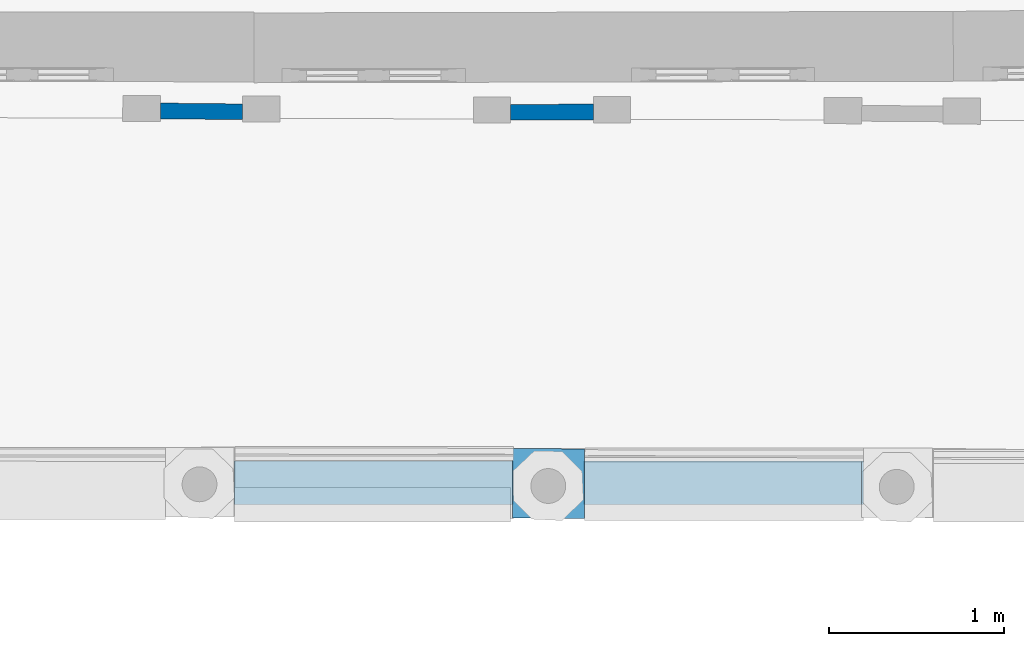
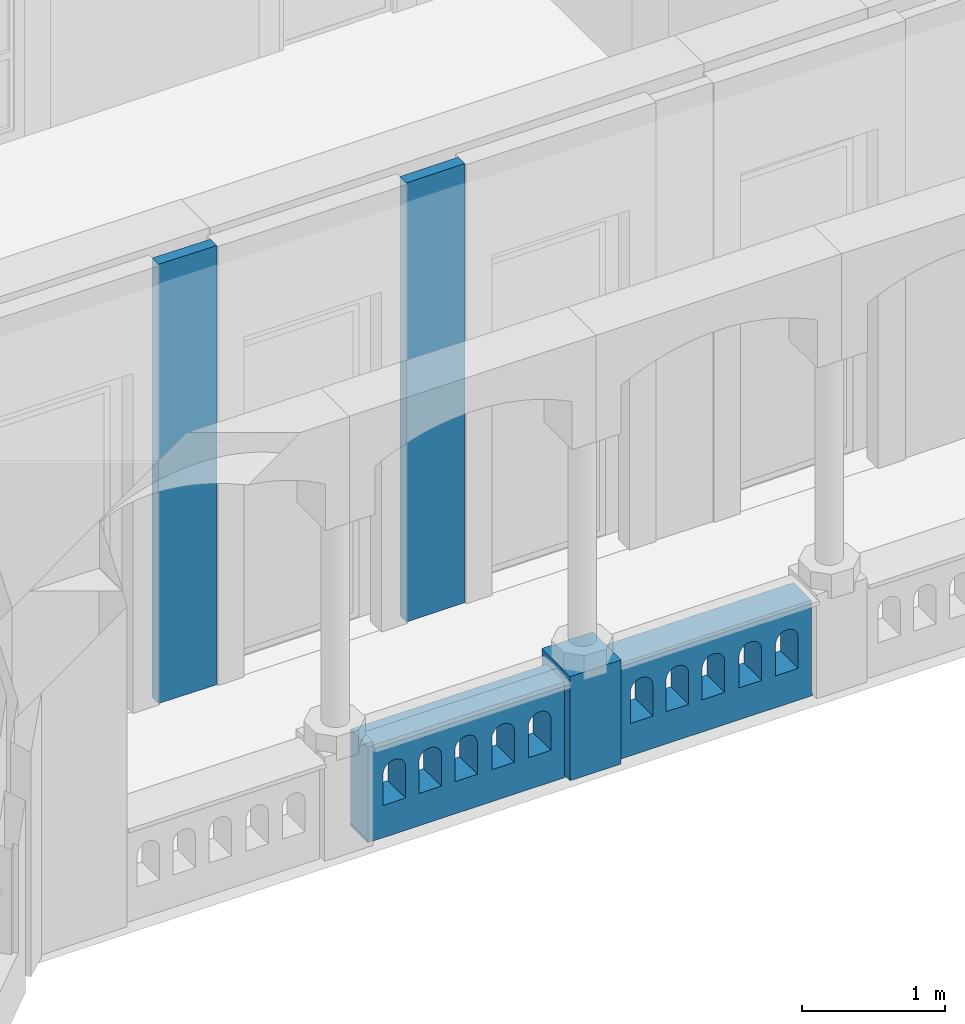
# One storey, part 5 of 66: 5 walls, 10 openings.
"""IFC2X3 building model written with IfcOpenShell, lengths in centimetres."""

from ifc_helpers import new_model, entity, si_unit, converted_unit, point, direction, frame, frame_2d, origin, origin_with_axes, origin_2d_with_axis, place, context, subcontext, project, spatial, polyline, circle_curve, trimmed, segment, composite_curve, rectangle, outline, extrude, clip, bounded_halfspace, shape, material, layer, layer_set, layer_usage, type_object, element, save


model = new_model("IFC2X3")

# Units and contexts
model_context = context("Model", 3, precision=0.0001, world=origin(), true_north=direction((0.225632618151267, 0.974212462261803, 0.0)))
body_context = subcontext(model_context, "Body", "Model", "MODEL_VIEW")
footprint_context = subcontext(model_context, "FootPrint", "Model", "MODEL_VIEW")
profile_context = subcontext(model_context, "Profile", "Model", "MODEL_VIEW")
ifc_project = project(units=[si_unit("LENGTHUNIT", "METRE", prefix="CENTI"), si_unit("AREAUNIT", "SQUARE_METRE", prefix="CENTI"), si_unit("VOLUMEUNIT", "CUBIC_METRE", prefix="CENTI"), converted_unit("PLANEANGLEUNIT", "DEGREE", entity("IfcRatioMeasure", 0.0174532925), si_unit("PLANEANGLEUNIT", "RADIAN"), dimensions=[0, 0, 0, 0, 0, 0, 0])], contexts=[model_context])

# Site, building, storey
site_placement = place(None, origin_with_axes())
site = spatial("IfcSite", under=ifc_project, at=site_placement, Name="Default Site", CompositionType="ELEMENT")
building_placement = place(site_placement, origin_with_axes())
building = spatial("IfcBuilding", under=site, at=building_placement, Name="Default Building", CompositionType="ELEMENT")
storey_placement = place(building_placement, frame((0.0, 0.0, 477.795358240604), z_axis=(0.0, 0.0, 1.0), x_axis=(1.0, 0.0, 0.0)))
storey = spatial("IfcBuildingStorey", under=building, at=storey_placement, Name="Niveau 1", CompositionType="ELEMENT", Elevation=477.795358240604)

# Walls
ifc_material = material(Name="<aucun>")
ifc_layer_1 = layer(ifc_material, 39.8)
ifc_layer_set_1 = layer_set([ifc_layer_1], Name="default")
ifc_layer_usage_1 = layer_usage(ifc_layer_set_1, "AXIS2", "POSITIVE", -19.9)
wall_type_1 = type_object("IfcWallType", Name="default 398", PredefinedType="NOTDEFINED", material=ifc_layer_set_1)
wall_1_placement = place(storey_placement, frame((-190.064528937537, -952.039991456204, 1.99999999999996), z_axis=(0.0, 0.0, 1.0), x_axis=(-0.999988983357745, 0.00469394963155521, 0.0)))
element("IfcWallStandardCase", 1, at=wall_1_placement, inside=storey, type_object=wall_type_1, material=ifc_layer_usage_1, Name="Enveloppe 435690", context=body_context, shape_type="Clipping", body=[
    clip(clip(extrude(outline(polyline([(41.2982892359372, -12.656703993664), (41.4151685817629, -12.6561553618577), (41.2982892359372, 12.24357032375), (41.2982892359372, 19.9), (20.7466599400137, 19.9), (0.0, 19.9), (0.0, 12.0497160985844), (-0.116879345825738, 12.0491674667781), (0.0, -12.8505582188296), (0.0, -19.8999999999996), (20.7466599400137, -19.8999999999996), (41.2982892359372, -19.8999999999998), (41.2982892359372, -12.656703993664)])), frame((0.0, 0.0, -1.77635683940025e-13), z_axis=(0.0, 0.0, 1.0), x_axis=(1.0, 0.0, 0.0)), (0.0, 0.0, 1.0), 89.115015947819), bounded_halfspace(frame((-0.116879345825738, 12.0491674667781, 80.1150159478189), z_axis=(0.0, 0.0, -1.0), x_axis=(0.0046939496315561, -0.999988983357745, 0.0)), True, frame((-0.116879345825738, 12.0491674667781, 80.1150159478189), z_axis=(0.0, 0.0, 1.0), x_axis=(1.0, 0.0, 0.0)), polyline([(-2.22044604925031e-14, 1.77635683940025e-13), (0.11687934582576, -24.8997256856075), (0.116879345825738, 0.00054863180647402), (-2.22044604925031e-14, 1.77635683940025e-13)]))), bounded_halfspace(frame((41.4151685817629, -12.6561553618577, 80.1150159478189), z_axis=(0.0, 0.0, -1.0), x_axis=(-0.00469394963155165, 0.999988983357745, 0.0)), True, frame((41.4151685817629, -12.6561553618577, 80.1150159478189), z_axis=(0.0, 0.0, 1.0), x_axis=(1.0, 0.0, 0.0)), polyline([(-0.11687934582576, -0.000548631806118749), (4.44089209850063e-14, 1.77635683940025e-13), (-0.116879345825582, 24.8997256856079), (-0.11687934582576, -0.000548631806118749)]))),
])
ifc_layer_2 = layer(ifc_material, 9.0)
ifc_layer_set_2 = layer_set([ifc_layer_2], Name="default")
ifc_layer_usage_2 = layer_usage(ifc_layer_set_2, "AXIS2", "POSITIVE", -4.5)
wall_type_2 = type_object("IfcWallType", Name="default 90", PredefinedType="NOTDEFINED", material=ifc_layer_set_2)
wall_2_placement = place(storey_placement, frame((-232.508019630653, -739.393719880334, 0.0128503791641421), z_axis=(0.0, 0.0, 1.0), x_axis=(0.999995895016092, 0.00286530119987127, 0.0)))
element("IfcWallStandardCase", 2, at=wall_2_placement, inside=storey, type_object=wall_type_2, material=ifc_layer_usage_2, Name="Enveloppe 423812", context=body_context, shape_type="SweptSolid", body=[
    extrude(outline(polyline([(-0.064357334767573, -4.49999999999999), (47.4658384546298, -4.49999999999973), (47.5260116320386, 4.50000000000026), (-1.77635683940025e-13, 4.50000000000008), (-0.064357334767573, -4.49999999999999)])), frame((0.0, 0.0, -3.5527136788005e-13), z_axis=(0.0, 0.0, 1.0), x_axis=(1.0, 0.0, 0.0)), (0.0, 0.0, 1.0), 376.102165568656),
])
ifc_layer_usage_3 = layer_usage(ifc_layer_set_2, "AXIS2", "POSITIVE", -4.5)
wall_3_placement = place(storey_placement, frame((-385.855437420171, -739.133978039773, 0.0128503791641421), z_axis=(0.0, 0.0, 1.0), x_axis=(-0.999943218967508, 0.0106563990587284, 0.0)))
element("IfcWallStandardCase", 3, at=wall_3_placement, inside=storey, type_object=wall_type_2, material=ifc_layer_usage_3, Name="Enveloppe 423877", context=body_context, shape_type="SweptSolid", body=[
    extrude(outline(polyline([(46.9381023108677, 4.49999999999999), (-0.0573416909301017, 4.4999999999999), (2.22044604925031e-13, -4.49999999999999), (46.9954440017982, -4.4999999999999), (46.9381023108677, 4.49999999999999)])), frame((0.0, 0.0, -1.77635683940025e-13), z_axis=(0.0, 0.0, 1.0), x_axis=(1.0, 0.0, 0.0)), (0.0, 0.0, 1.0), 376.102165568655),
])

# Wall, openings
ifc_layer_3 = layer(ifc_material, 24.9)
ifc_layer_set_3 = layer_set([ifc_layer_3], Name="default")
ifc_layer_usage_4 = layer_usage(ifc_layer_set_3, "AXIS2", "POSITIVE", -12.45)
wall_type_3 = type_object("IfcWallType", Name="default 249", PredefinedType="NOTDEFINED", material=ifc_layer_set_3)
wall_4_placement = place(storey_placement, frame((-390.86629777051, -951.639574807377, 0.0128503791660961), z_axis=(0.0, 0.0, 1.0), x_axis=(1.0, 0.0, 0.0)))
wall_4 = element("IfcWallStandardCase", 4, at=wall_4_placement, inside=storey, type_object=wall_type_3, material=ifc_layer_usage_4, Name="Enveloppe 449443", context=body_context, shape_type="Clipping", body=[
    clip(clip(extrude(rectangle(XDim=24.8999999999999, YDim=160.209383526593, at=origin_2d_with_axis()), frame((80.1046917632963, 0.0, 0.0), z_axis=(0.0, 0.0, 1.0), x_axis=(0.0, 1.0, 0.0)), (0.0, 0.0, 1.0), 82.1021655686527), bounded_halfspace(frame((159.446463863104, -12.4499999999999, 1.98714962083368), z_axis=(0.0, 0.0, -1.0), x_axis=(1.0, 0.0, 0.0)), True, frame((159.446463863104, -12.4499999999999, 1.98714962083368), z_axis=(0.0, 0.0, 1.0), x_axis=(1.0, 0.0, 0.0)), polyline([(0.0, 0.0), (0.762919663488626, 0.0), (0.762919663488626, 24.8999999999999), (0.0, 24.8999999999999), (0.0, 0.0)]))), bounded_halfspace(frame((0.255458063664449, 12.4499999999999, 1.98714962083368), z_axis=(0.0, 0.0, -1.0), x_axis=(-1.0, 0.0, 0.0)), True, frame((0.255458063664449, 12.4499999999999, 1.98714962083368), z_axis=(0.0, 0.0, 1.0), x_axis=(1.0, 0.0, 0.0)), polyline([(-0.255458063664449, -24.8999999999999), (0.0, -24.8999999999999), (0.0, 0.0), (-0.255458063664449, 0.0), (-0.255458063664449, -24.8999999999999)]))),
])
opening_1_placement = place(wall_4_placement, frame((12.4256332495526, 0.0, 27.6595103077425), z_axis=(0.0, 0.0, 1.0), x_axis=(-1.0, 0.0, 0.0)))
cartesian_point_1 = entity("IfcCartesianPoint", [0.0, 0.0, 27.0964888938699])
cartesian_point_2 = entity("IfcCartesianPoint", [-18.1669635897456, 0.0, 27.0964888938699])
cartesian_point_3 = entity("IfcCartesianPoint", [-18.1669635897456, -12.4499999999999])
element("IfcOpeningElement", 5, at=opening_1_placement, cuts=wall_4, Name="Baie 449445", ObjectType="Opening", shapes=[
    shape(body_context, "Body", "SweptSolid", [extrude(outline(composite_curve([segment(polyline([(0.0, 27.0964888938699), (0.0, 0.0), (18.1669635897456, 0.0), (18.1669635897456, 27.0964888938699)]), True, "CONTINUOUS"), segment(trimmed(circle_curve(frame_2d((9.08348179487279, 27.0964888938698), x_axis=(1.0, 0.0)), 9.08348179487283), [point((18.1669635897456, 27.0964888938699))], [point((0.0, 27.0964888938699))], True, "CARTESIAN"), True, "CONTINUOUS")], self_intersect=False)), frame((0.0, -22.45, 0.0), z_axis=(0.0, 1.0, 0.0), x_axis=(-1.0, 0.0, 0.0)), (0.0, 0.0, 1.0), 44.9)]),
    shape(profile_context, "Profile", "GeometricCurveSet", [entity("IfcGeometricCurveSet", [entity("IfcCompositeCurve", [entity("IfcCompositeCurveSegment", "CONTINUOUS", True, entity("IfcPolyline", [cartesian_point_1, entity("IfcCartesianPoint", [0.0, 0.0, 0.0]), entity("IfcCartesianPoint", [-18.1669635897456, 0.0, 0.0]), cartesian_point_2])), entity("IfcCompositeCurveSegment", "CONTINUOUS", True, entity("IfcTrimmedCurve", entity("IfcCircle", entity("IfcAxis2Placement3D", entity("IfcCartesianPoint", [-9.08348179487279, 0.0, 27.0964888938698]), entity("IfcDirection", [0.0, 1.0, 0.0]), entity("IfcDirection", [1.0, 0.0, 0.0])), 9.08348179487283), [cartesian_point_2], [cartesian_point_1], True, "CARTESIAN"))], False)])]),
    shape(footprint_context, "FootPrint", "GeometricCurveSet", [entity("IfcGeometricCurveSet", [entity("IfcPolyline", [cartesian_point_3, entity("IfcCartesianPoint", [4.44089209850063e-14, -12.4499999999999]), entity("IfcCartesianPoint", [4.44089209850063e-14, 12.4499999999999]), entity("IfcCartesianPoint", [-18.1669635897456, 12.4499999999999]), cartesian_point_3])])]),
])
opening_2_placement = place(wall_4_placement, frame((70.5599167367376, 0.0, 27.6595103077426), z_axis=(0.0, 0.0, 1.0), x_axis=(-1.0, 0.0, 0.0)))
cartesian_point_4 = entity("IfcCartesianPoint", [0.0, 0.0, 27.0964888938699])
cartesian_point_5 = entity("IfcCartesianPoint", [-18.1669635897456, 0.0, 27.0964888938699])
cartesian_point_6 = entity("IfcCartesianPoint", [-18.1669635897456, -12.4499999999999])
element("IfcOpeningElement", 6, at=opening_2_placement, cuts=wall_4, Name="Baie 449447", ObjectType="Opening", shapes=[
    shape(body_context, "Body", "SweptSolid", [extrude(outline(composite_curve([segment(polyline([(0.0, 27.0964888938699), (0.0, 0.0), (18.1669635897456, 0.0), (18.1669635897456, 27.0964888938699)]), True, "CONTINUOUS"), segment(trimmed(circle_curve(frame_2d((9.08348179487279, 27.0964888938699), x_axis=(1.0, 0.0)), 9.08348179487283), [point((18.1669635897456, 27.0964888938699))], [point((0.0, 27.0964888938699))], True, "CARTESIAN"), True, "CONTINUOUS")], self_intersect=False)), frame((0.0, -22.45, 0.0), z_axis=(0.0, 1.0, 0.0), x_axis=(-1.0, 0.0, 0.0)), (0.0, 0.0, 1.0), 44.9)]),
    shape(profile_context, "Profile", "GeometricCurveSet", [entity("IfcGeometricCurveSet", [entity("IfcCompositeCurve", [entity("IfcCompositeCurveSegment", "CONTINUOUS", True, entity("IfcPolyline", [cartesian_point_4, entity("IfcCartesianPoint", [0.0, 0.0, 0.0]), entity("IfcCartesianPoint", [-18.1669635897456, 0.0, 0.0]), cartesian_point_5])), entity("IfcCompositeCurveSegment", "CONTINUOUS", True, entity("IfcTrimmedCurve", entity("IfcCircle", entity("IfcAxis2Placement3D", entity("IfcCartesianPoint", [-9.08348179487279, 0.0, 27.0964888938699]), entity("IfcDirection", [0.0, 1.0, 0.0]), entity("IfcDirection", [1.0, 0.0, 0.0])), 9.08348179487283), [cartesian_point_5], [cartesian_point_4], True, "CARTESIAN"))], False)])]),
    shape(footprint_context, "FootPrint", "GeometricCurveSet", [entity("IfcGeometricCurveSet", [entity("IfcPolyline", [cartesian_point_6, entity("IfcCartesianPoint", [4.44089209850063e-14, -12.4499999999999]), entity("IfcCartesianPoint", [4.44089209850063e-14, 12.4499999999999]), entity("IfcCartesianPoint", [-18.1669635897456, 12.4499999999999]), cartesian_point_6])])]),
])
opening_3_placement = place(wall_4_placement, frame((41.3696091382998, 0.0, 27.6595103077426), z_axis=(0.0, 0.0, 1.0), x_axis=(-1.0, 0.0, 0.0)))
cartesian_point_7 = entity("IfcCartesianPoint", [0.0, 0.0, 27.0964888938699])
cartesian_point_8 = entity("IfcCartesianPoint", [-18.1669635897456, 0.0, 27.0964888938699])
cartesian_point_9 = entity("IfcCartesianPoint", [-18.1669635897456, -12.4499999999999])
element("IfcOpeningElement", 7, at=opening_3_placement, cuts=wall_4, Name="Baie 449446", ObjectType="Opening", shapes=[
    shape(body_context, "Body", "SweptSolid", [extrude(outline(composite_curve([segment(polyline([(0.0, 27.0964888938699), (0.0, 0.0), (18.1669635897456, 0.0), (18.1669635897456, 27.0964888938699)]), True, "CONTINUOUS"), segment(trimmed(circle_curve(frame_2d((9.08348179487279, 27.0964888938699), x_axis=(1.0, 0.0)), 9.08348179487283), [point((18.1669635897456, 27.0964888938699))], [point((0.0, 27.0964888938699))], True, "CARTESIAN"), True, "CONTINUOUS")], self_intersect=False)), frame((0.0, -22.45, 0.0), z_axis=(0.0, 1.0, 0.0), x_axis=(-1.0, 0.0, 0.0)), (0.0, 0.0, 1.0), 44.9)]),
    shape(profile_context, "Profile", "GeometricCurveSet", [entity("IfcGeometricCurveSet", [entity("IfcCompositeCurve", [entity("IfcCompositeCurveSegment", "CONTINUOUS", True, entity("IfcPolyline", [cartesian_point_7, entity("IfcCartesianPoint", [0.0, 0.0, 0.0]), entity("IfcCartesianPoint", [-18.1669635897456, 0.0, 0.0]), cartesian_point_8])), entity("IfcCompositeCurveSegment", "CONTINUOUS", True, entity("IfcTrimmedCurve", entity("IfcCircle", entity("IfcAxis2Placement3D", entity("IfcCartesianPoint", [-9.08348179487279, 0.0, 27.0964888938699]), entity("IfcDirection", [0.0, 1.0, 0.0]), entity("IfcDirection", [1.0, 0.0, 0.0])), 9.08348179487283), [cartesian_point_8], [cartesian_point_7], True, "CARTESIAN"))], False)])]),
    shape(footprint_context, "FootPrint", "GeometricCurveSet", [entity("IfcGeometricCurveSet", [entity("IfcPolyline", [cartesian_point_9, entity("IfcCartesianPoint", [4.44089209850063e-14, -12.4499999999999]), entity("IfcCartesianPoint", [4.44089209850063e-14, 12.4499999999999]), entity("IfcCartesianPoint", [-18.1669635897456, 12.4499999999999]), cartesian_point_9])])]),
])
opening_4_placement = place(wall_4_placement, frame((100.525714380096, 0.0, 27.3778886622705), z_axis=(0.0, 0.0, 1.0), x_axis=(-1.0, 0.0, 0.0)))
cartesian_point_10 = entity("IfcCartesianPoint", [0.0, 0.0, 27.0964888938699])
cartesian_point_11 = entity("IfcCartesianPoint", [-18.1669635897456, 0.0, 27.0964888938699])
cartesian_point_12 = entity("IfcCartesianPoint", [-18.1669635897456, -12.4499999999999])
element("IfcOpeningElement", 8, at=opening_4_placement, cuts=wall_4, Name="Baie 449448", ObjectType="Opening", shapes=[
    shape(body_context, "Body", "SweptSolid", [extrude(outline(composite_curve([segment(polyline([(0.0, 27.0964888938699), (0.0, 0.0), (18.1669635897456, 0.0), (18.1669635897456, 27.0964888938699)]), True, "CONTINUOUS"), segment(trimmed(circle_curve(frame_2d((9.08348179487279, 27.0964888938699), x_axis=(1.0, 0.0)), 9.08348179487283), [point((18.1669635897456, 27.0964888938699))], [point((0.0, 27.0964888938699))], True, "CARTESIAN"), True, "CONTINUOUS")], self_intersect=False)), frame((0.0, -22.45, 0.0), z_axis=(0.0, 1.0, 0.0), x_axis=(-1.0, 0.0, 0.0)), (0.0, 0.0, 1.0), 44.9)]),
    shape(profile_context, "Profile", "GeometricCurveSet", [entity("IfcGeometricCurveSet", [entity("IfcCompositeCurve", [entity("IfcCompositeCurveSegment", "CONTINUOUS", True, entity("IfcPolyline", [cartesian_point_10, entity("IfcCartesianPoint", [0.0, 0.0, 0.0]), entity("IfcCartesianPoint", [-18.1669635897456, 0.0, 0.0]), cartesian_point_11])), entity("IfcCompositeCurveSegment", "CONTINUOUS", True, entity("IfcTrimmedCurve", entity("IfcCircle", entity("IfcAxis2Placement3D", entity("IfcCartesianPoint", [-9.08348179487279, 0.0, 27.0964888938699]), entity("IfcDirection", [0.0, 1.0, 0.0]), entity("IfcDirection", [1.0, 0.0, 0.0])), 9.08348179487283), [cartesian_point_11], [cartesian_point_10], True, "CARTESIAN"))], False)])]),
    shape(footprint_context, "FootPrint", "GeometricCurveSet", [entity("IfcGeometricCurveSet", [entity("IfcPolyline", [cartesian_point_12, entity("IfcCartesianPoint", [4.44089209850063e-14, -12.4499999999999]), entity("IfcCartesianPoint", [4.44089209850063e-14, 12.4499999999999]), entity("IfcCartesianPoint", [-18.1669635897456, 12.4499999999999]), cartesian_point_12])])]),
])
opening_5_placement = place(wall_4_placement, frame((130.114399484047, 0.0, 27.3778522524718), z_axis=(0.0, 0.0, 1.0), x_axis=(-1.0, 0.0, 0.0)))
cartesian_point_13 = entity("IfcCartesianPoint", [0.0, 0.0, 27.0964888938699])
cartesian_point_14 = entity("IfcCartesianPoint", [-18.1669635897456, 0.0, 27.0964888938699])
cartesian_point_15 = entity("IfcCartesianPoint", [-18.1669635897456, -12.4499999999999])
element("IfcOpeningElement", 9, at=opening_5_placement, cuts=wall_4, Name="Baie 449449", ObjectType="Opening", shapes=[
    shape(body_context, "Body", "SweptSolid", [extrude(outline(composite_curve([segment(polyline([(0.0, 27.0964888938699), (0.0, 0.0), (18.1669635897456, 0.0), (18.1669635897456, 27.0964888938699)]), True, "CONTINUOUS"), segment(trimmed(circle_curve(frame_2d((9.08348179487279, 27.0964888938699), x_axis=(1.0, 0.0)), 9.08348179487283), [point((18.1669635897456, 27.0964888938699))], [point((0.0, 27.0964888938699))], True, "CARTESIAN"), True, "CONTINUOUS")], self_intersect=False)), frame((0.0, -22.45, 0.0), z_axis=(0.0, 1.0, 0.0), x_axis=(-1.0, 0.0, 0.0)), (0.0, 0.0, 1.0), 44.9)]),
    shape(profile_context, "Profile", "GeometricCurveSet", [entity("IfcGeometricCurveSet", [entity("IfcCompositeCurve", [entity("IfcCompositeCurveSegment", "CONTINUOUS", True, entity("IfcPolyline", [cartesian_point_13, entity("IfcCartesianPoint", [0.0, 0.0, 0.0]), entity("IfcCartesianPoint", [-18.1669635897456, 0.0, 0.0]), cartesian_point_14])), entity("IfcCompositeCurveSegment", "CONTINUOUS", True, entity("IfcTrimmedCurve", entity("IfcCircle", entity("IfcAxis2Placement3D", entity("IfcCartesianPoint", [-9.08348179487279, 0.0, 27.0964888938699]), entity("IfcDirection", [0.0, 1.0, 0.0]), entity("IfcDirection", [1.0, 0.0, 0.0])), 9.08348179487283), [cartesian_point_14], [cartesian_point_13], True, "CARTESIAN"))], False)])]),
    shape(footprint_context, "FootPrint", "GeometricCurveSet", [entity("IfcGeometricCurveSet", [entity("IfcPolyline", [cartesian_point_15, entity("IfcCartesianPoint", [4.44089209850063e-14, -12.4499999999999]), entity("IfcCartesianPoint", [4.44089209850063e-14, 12.4499999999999]), entity("IfcCartesianPoint", [-18.1669635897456, 12.4499999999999]), cartesian_point_15])])]),
])

ifc_layer_usage_5 = layer_usage(ifc_layer_set_3, "AXIS2", "POSITIVE", -12.45)
wall_5_placement = place(storey_placement, frame((-190.585694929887, -951.639574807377, 0.0128503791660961), z_axis=(0.0, 0.0, 1.0), x_axis=(1.0, 0.0, 0.0)))
wall_5 = element("IfcWallStandardCase", 10, at=wall_5_placement, inside=storey, type_object=wall_type_3, material=ifc_layer_usage_5, Name="Enveloppe 449458", context=body_context, shape_type="Clipping", body=[
    clip(clip(extrude(rectangle(XDim=24.8999999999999, YDim=160.209383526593, at=origin_2d_with_axis()), frame((80.1046917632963, 0.0, 0.0), z_axis=(0.0, 0.0, 1.0), x_axis=(0.0, 1.0, 0.0)), (0.0, 0.0, 1.0), 82.1021655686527), bounded_halfspace(frame((159.04270223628, -12.4499999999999, 1.98714962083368), z_axis=(0.0, 0.0, -1.0), x_axis=(1.0, 0.0, 0.0)), True, frame((159.04270223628, -12.4499999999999, 1.98714962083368), z_axis=(0.0, 0.0, 1.0), x_axis=(1.0, 0.0, 0.0)), polyline([(0.0, 0.0), (1.1666812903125, 0.0), (1.1666812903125, 24.8999999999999), (-2.22044604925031e-14, 24.8999999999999), (0.0, 0.0)]))), bounded_halfspace(frame((0.581485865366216, 12.4499999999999, 1.98714962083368), z_axis=(0.0, 0.0, -1.0), x_axis=(-1.0, 0.0, 0.0)), True, frame((0.581485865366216, 12.4499999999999, 1.98714962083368), z_axis=(0.0, 0.0, 1.0), x_axis=(1.0, 0.0, 0.0)), polyline([(-0.581485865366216, -24.8999999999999), (0.0, -24.8999999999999), (0.0, 0.0), (-0.581485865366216, 0.0), (-0.581485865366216, -24.8999999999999)]))),
])
opening_6_placement = place(wall_5_placement, frame((130.114399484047, 0.0, 27.3778522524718), z_axis=(0.0, 0.0, 1.0), x_axis=(-1.0, 0.0, 0.0)))
cartesian_point_16 = entity("IfcCartesianPoint", [0.0, 0.0, 27.0964888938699])
cartesian_point_17 = entity("IfcCartesianPoint", [-18.1669635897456, 0.0, 27.0964888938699])
cartesian_point_18 = entity("IfcCartesianPoint", [-18.1669635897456, -12.4499999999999])
element("IfcOpeningElement", 11, at=opening_6_placement, cuts=wall_5, Name="Baie 449464", ObjectType="Opening", shapes=[
    shape(body_context, "Body", "SweptSolid", [extrude(outline(composite_curve([segment(polyline([(0.0, 27.0964888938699), (0.0, 0.0), (18.1669635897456, 0.0), (18.1669635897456, 27.0964888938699)]), True, "CONTINUOUS"), segment(trimmed(circle_curve(frame_2d((9.08348179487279, 27.0964888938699), x_axis=(1.0, 0.0)), 9.08348179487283), [point((18.1669635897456, 27.0964888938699))], [point((0.0, 27.0964888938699))], True, "CARTESIAN"), True, "CONTINUOUS")], self_intersect=False)), frame((0.0, -22.45, 0.0), z_axis=(0.0, 1.0, 0.0), x_axis=(-1.0, 0.0, 0.0)), (0.0, 0.0, 1.0), 44.9)]),
    shape(profile_context, "Profile", "GeometricCurveSet", [entity("IfcGeometricCurveSet", [entity("IfcCompositeCurve", [entity("IfcCompositeCurveSegment", "CONTINUOUS", True, entity("IfcPolyline", [cartesian_point_16, entity("IfcCartesianPoint", [0.0, 0.0, 0.0]), entity("IfcCartesianPoint", [-18.1669635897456, 0.0, 0.0]), cartesian_point_17])), entity("IfcCompositeCurveSegment", "CONTINUOUS", True, entity("IfcTrimmedCurve", entity("IfcCircle", entity("IfcAxis2Placement3D", entity("IfcCartesianPoint", [-9.08348179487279, 0.0, 27.0964888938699]), entity("IfcDirection", [0.0, 1.0, 0.0]), entity("IfcDirection", [1.0, 0.0, 0.0])), 9.08348179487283), [cartesian_point_17], [cartesian_point_16], True, "CARTESIAN"))], False)])]),
    shape(footprint_context, "FootPrint", "GeometricCurveSet", [entity("IfcGeometricCurveSet", [entity("IfcPolyline", [cartesian_point_18, entity("IfcCartesianPoint", [4.44089209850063e-14, -12.4499999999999]), entity("IfcCartesianPoint", [4.44089209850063e-14, 12.4499999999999]), entity("IfcCartesianPoint", [-18.1669635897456, 12.4499999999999]), cartesian_point_18])])]),
])
opening_7_placement = place(wall_5_placement, frame((12.4256332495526, 0.0, 27.6595103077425), z_axis=(0.0, 0.0, 1.0), x_axis=(-1.0, 0.0, 0.0)))
cartesian_point_19 = entity("IfcCartesianPoint", [0.0, 0.0, 27.0964888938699])
cartesian_point_20 = entity("IfcCartesianPoint", [-18.1669635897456, 0.0, 27.0964888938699])
cartesian_point_21 = entity("IfcCartesianPoint", [-18.1669635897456, -12.4499999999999])
element("IfcOpeningElement", 12, at=opening_7_placement, cuts=wall_5, Name="Baie 449460", ObjectType="Opening", shapes=[
    shape(body_context, "Body", "SweptSolid", [extrude(outline(composite_curve([segment(polyline([(0.0, 27.0964888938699), (0.0, 0.0), (18.1669635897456, 0.0), (18.1669635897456, 27.0964888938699)]), True, "CONTINUOUS"), segment(trimmed(circle_curve(frame_2d((9.08348179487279, 27.0964888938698), x_axis=(1.0, 0.0)), 9.08348179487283), [point((18.1669635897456, 27.0964888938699))], [point((0.0, 27.0964888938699))], True, "CARTESIAN"), True, "CONTINUOUS")], self_intersect=False)), frame((0.0, -22.45, 0.0), z_axis=(0.0, 1.0, 0.0), x_axis=(-1.0, 0.0, 0.0)), (0.0, 0.0, 1.0), 44.9)]),
    shape(profile_context, "Profile", "GeometricCurveSet", [entity("IfcGeometricCurveSet", [entity("IfcCompositeCurve", [entity("IfcCompositeCurveSegment", "CONTINUOUS", True, entity("IfcPolyline", [cartesian_point_19, entity("IfcCartesianPoint", [0.0, 0.0, 0.0]), entity("IfcCartesianPoint", [-18.1669635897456, 0.0, 0.0]), cartesian_point_20])), entity("IfcCompositeCurveSegment", "CONTINUOUS", True, entity("IfcTrimmedCurve", entity("IfcCircle", entity("IfcAxis2Placement3D", entity("IfcCartesianPoint", [-9.08348179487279, 0.0, 27.0964888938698]), entity("IfcDirection", [0.0, 1.0, 0.0]), entity("IfcDirection", [1.0, 0.0, 0.0])), 9.08348179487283), [cartesian_point_20], [cartesian_point_19], True, "CARTESIAN"))], False)])]),
    shape(footprint_context, "FootPrint", "GeometricCurveSet", [entity("IfcGeometricCurveSet", [entity("IfcPolyline", [cartesian_point_21, entity("IfcCartesianPoint", [4.44089209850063e-14, -12.4499999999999]), entity("IfcCartesianPoint", [4.44089209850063e-14, 12.4499999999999]), entity("IfcCartesianPoint", [-18.1669635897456, 12.4499999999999]), cartesian_point_21])])]),
])
opening_8_placement = place(wall_5_placement, frame((41.3696091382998, 0.0, 27.6595103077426), z_axis=(0.0, 0.0, 1.0), x_axis=(-1.0, 0.0, 0.0)))
cartesian_point_22 = entity("IfcCartesianPoint", [0.0, 0.0, 27.0964888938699])
cartesian_point_23 = entity("IfcCartesianPoint", [-18.1669635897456, 0.0, 27.0964888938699])
cartesian_point_24 = entity("IfcCartesianPoint", [-18.1669635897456, -12.4499999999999])
element("IfcOpeningElement", 13, at=opening_8_placement, cuts=wall_5, Name="Baie 449461", ObjectType="Opening", shapes=[
    shape(body_context, "Body", "SweptSolid", [extrude(outline(composite_curve([segment(polyline([(0.0, 27.0964888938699), (0.0, 0.0), (18.1669635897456, 0.0), (18.1669635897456, 27.0964888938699)]), True, "CONTINUOUS"), segment(trimmed(circle_curve(frame_2d((9.08348179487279, 27.0964888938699), x_axis=(1.0, 0.0)), 9.08348179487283), [point((18.1669635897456, 27.0964888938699))], [point((0.0, 27.0964888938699))], True, "CARTESIAN"), True, "CONTINUOUS")], self_intersect=False)), frame((0.0, -22.45, 0.0), z_axis=(0.0, 1.0, 0.0), x_axis=(-1.0, 0.0, 0.0)), (0.0, 0.0, 1.0), 44.9)]),
    shape(profile_context, "Profile", "GeometricCurveSet", [entity("IfcGeometricCurveSet", [entity("IfcCompositeCurve", [entity("IfcCompositeCurveSegment", "CONTINUOUS", True, entity("IfcPolyline", [cartesian_point_22, entity("IfcCartesianPoint", [0.0, 0.0, 0.0]), entity("IfcCartesianPoint", [-18.1669635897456, 0.0, 0.0]), cartesian_point_23])), entity("IfcCompositeCurveSegment", "CONTINUOUS", True, entity("IfcTrimmedCurve", entity("IfcCircle", entity("IfcAxis2Placement3D", entity("IfcCartesianPoint", [-9.08348179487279, 0.0, 27.0964888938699]), entity("IfcDirection", [0.0, 1.0, 0.0]), entity("IfcDirection", [1.0, 0.0, 0.0])), 9.08348179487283), [cartesian_point_23], [cartesian_point_22], True, "CARTESIAN"))], False)])]),
    shape(footprint_context, "FootPrint", "GeometricCurveSet", [entity("IfcGeometricCurveSet", [entity("IfcPolyline", [cartesian_point_24, entity("IfcCartesianPoint", [4.44089209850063e-14, -12.4499999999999]), entity("IfcCartesianPoint", [4.44089209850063e-14, 12.4499999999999]), entity("IfcCartesianPoint", [-18.1669635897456, 12.4499999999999]), cartesian_point_24])])]),
])
opening_9_placement = place(wall_5_placement, frame((100.525714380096, 0.0, 27.3778886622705), z_axis=(0.0, 0.0, 1.0), x_axis=(-1.0, 0.0, 0.0)))
cartesian_point_25 = entity("IfcCartesianPoint", [0.0, 0.0, 27.0964888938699])
cartesian_point_26 = entity("IfcCartesianPoint", [-18.1669635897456, 0.0, 27.0964888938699])
cartesian_point_27 = entity("IfcCartesianPoint", [-18.1669635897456, -12.4499999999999])
element("IfcOpeningElement", 14, at=opening_9_placement, cuts=wall_5, Name="Baie 449463", ObjectType="Opening", shapes=[
    shape(body_context, "Body", "SweptSolid", [extrude(outline(composite_curve([segment(polyline([(0.0, 27.0964888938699), (0.0, 0.0), (18.1669635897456, 0.0), (18.1669635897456, 27.0964888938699)]), True, "CONTINUOUS"), segment(trimmed(circle_curve(frame_2d((9.08348179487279, 27.0964888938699), x_axis=(1.0, 0.0)), 9.08348179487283), [point((18.1669635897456, 27.0964888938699))], [point((0.0, 27.0964888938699))], True, "CARTESIAN"), True, "CONTINUOUS")], self_intersect=False)), frame((0.0, -22.45, 0.0), z_axis=(0.0, 1.0, 0.0), x_axis=(-1.0, 0.0, 0.0)), (0.0, 0.0, 1.0), 44.9)]),
    shape(profile_context, "Profile", "GeometricCurveSet", [entity("IfcGeometricCurveSet", [entity("IfcCompositeCurve", [entity("IfcCompositeCurveSegment", "CONTINUOUS", True, entity("IfcPolyline", [cartesian_point_25, entity("IfcCartesianPoint", [0.0, 0.0, 0.0]), entity("IfcCartesianPoint", [-18.1669635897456, 0.0, 0.0]), cartesian_point_26])), entity("IfcCompositeCurveSegment", "CONTINUOUS", True, entity("IfcTrimmedCurve", entity("IfcCircle", entity("IfcAxis2Placement3D", entity("IfcCartesianPoint", [-9.08348179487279, 0.0, 27.0964888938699]), entity("IfcDirection", [0.0, 1.0, 0.0]), entity("IfcDirection", [1.0, 0.0, 0.0])), 9.08348179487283), [cartesian_point_26], [cartesian_point_25], True, "CARTESIAN"))], False)])]),
    shape(footprint_context, "FootPrint", "GeometricCurveSet", [entity("IfcGeometricCurveSet", [entity("IfcPolyline", [cartesian_point_27, entity("IfcCartesianPoint", [4.44089209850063e-14, -12.4499999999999]), entity("IfcCartesianPoint", [4.44089209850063e-14, 12.4499999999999]), entity("IfcCartesianPoint", [-18.1669635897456, 12.4499999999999]), cartesian_point_27])])]),
])
opening_10_placement = place(wall_5_placement, frame((70.5599167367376, 0.0, 27.6595103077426), z_axis=(0.0, 0.0, 1.0), x_axis=(-1.0, 0.0, 0.0)))
cartesian_point_28 = entity("IfcCartesianPoint", [0.0, 0.0, 27.0964888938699])
cartesian_point_29 = entity("IfcCartesianPoint", [-18.1669635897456, 0.0, 27.0964888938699])
cartesian_point_30 = entity("IfcCartesianPoint", [-18.1669635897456, -12.4499999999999])
element("IfcOpeningElement", 15, at=opening_10_placement, cuts=wall_5, Name="Baie 449462", ObjectType="Opening", shapes=[
    shape(body_context, "Body", "SweptSolid", [extrude(outline(composite_curve([segment(polyline([(0.0, 27.0964888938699), (0.0, 0.0), (18.1669635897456, 0.0), (18.1669635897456, 27.0964888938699)]), True, "CONTINUOUS"), segment(trimmed(circle_curve(frame_2d((9.08348179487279, 27.0964888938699), x_axis=(1.0, 0.0)), 9.08348179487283), [point((18.1669635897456, 27.0964888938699))], [point((0.0, 27.0964888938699))], True, "CARTESIAN"), True, "CONTINUOUS")], self_intersect=False)), frame((0.0, -22.45, 0.0), z_axis=(0.0, 1.0, 0.0), x_axis=(-1.0, 0.0, 0.0)), (0.0, 0.0, 1.0), 44.9)]),
    shape(profile_context, "Profile", "GeometricCurveSet", [entity("IfcGeometricCurveSet", [entity("IfcCompositeCurve", [entity("IfcCompositeCurveSegment", "CONTINUOUS", True, entity("IfcPolyline", [cartesian_point_28, entity("IfcCartesianPoint", [0.0, 0.0, 0.0]), entity("IfcCartesianPoint", [-18.1669635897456, 0.0, 0.0]), cartesian_point_29])), entity("IfcCompositeCurveSegment", "CONTINUOUS", True, entity("IfcTrimmedCurve", entity("IfcCircle", entity("IfcAxis2Placement3D", entity("IfcCartesianPoint", [-9.08348179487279, 0.0, 27.0964888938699]), entity("IfcDirection", [0.0, 1.0, 0.0]), entity("IfcDirection", [1.0, 0.0, 0.0])), 9.08348179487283), [cartesian_point_29], [cartesian_point_28], True, "CARTESIAN"))], False)])]),
    shape(footprint_context, "FootPrint", "GeometricCurveSet", [entity("IfcGeometricCurveSet", [entity("IfcPolyline", [cartesian_point_30, entity("IfcCartesianPoint", [4.44089209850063e-14, -12.4499999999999]), entity("IfcCartesianPoint", [4.44089209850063e-14, 12.4499999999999]), entity("IfcCartesianPoint", [-18.1669635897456, 12.4499999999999]), cartesian_point_30])])]),
])

save(model, "model.ifc")
